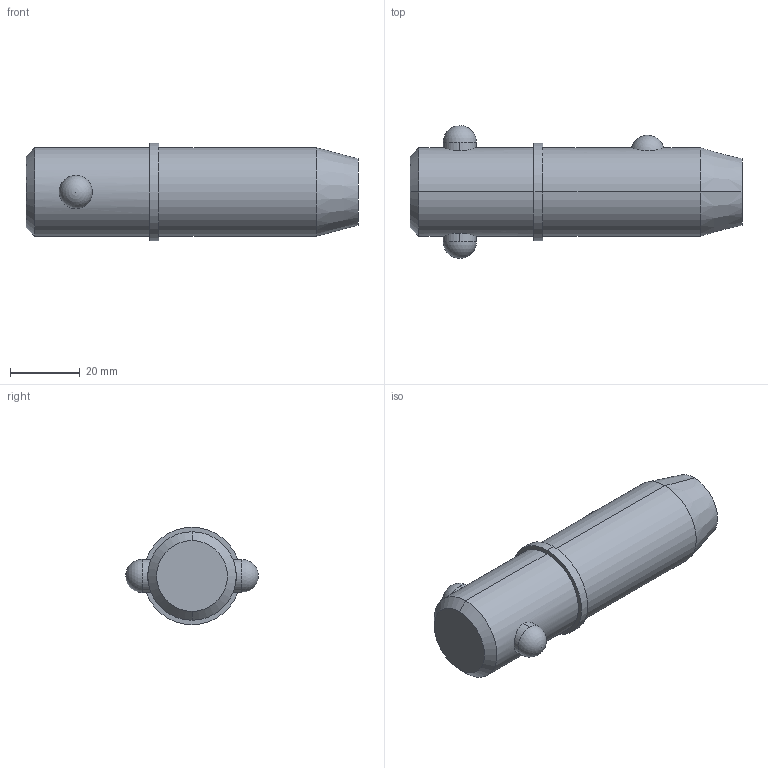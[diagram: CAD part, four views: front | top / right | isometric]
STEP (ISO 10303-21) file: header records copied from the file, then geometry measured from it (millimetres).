
FILE_DESCRIPTION (( 'STEP AP203' ), '1' );
FILE_NAME ('33018.W1010.step', '2024-11-19T17:23:44', ( '' ), ( '' ), 'SwSTEP 2.0', 'SolidWorks 2019', '' );
FILE_SCHEMA (( 'CONFIG_CONTROL_DESIGN' ));
Length unit declared in the file: millimetre
Products named in the file (3): Part1_33018.W1010; 33018.W1010; Part2_33018.W1010
Assembly tree (2 placements, depth 2):
  33018.W1010
    Part1_33018.W1010
    Part2_33018.W1010
Bounding box: 95.25 x 38.1 x 27.94 mm (x, y, z)
Volume: 47789.3 mm3; surface area: 10185.9 mm2
Topology: 2 solids, 2 shells, 22 faces, 47 edges, 30 vertices
Faces by surface type: cylinder 10, sphere 4, cone 4, plane 4
Entity records: 1071 total; most frequent: CARTESIAN_POINT 314, DIRECTION 110, ORIENTED_EDGE 82, AXIS2_PLACEMENT_3D 48, EDGE_CURVE 41, EDGE_LOOP 27, VERTEX_POINT 26, PERSON_AND_ORGANIZATION 26
